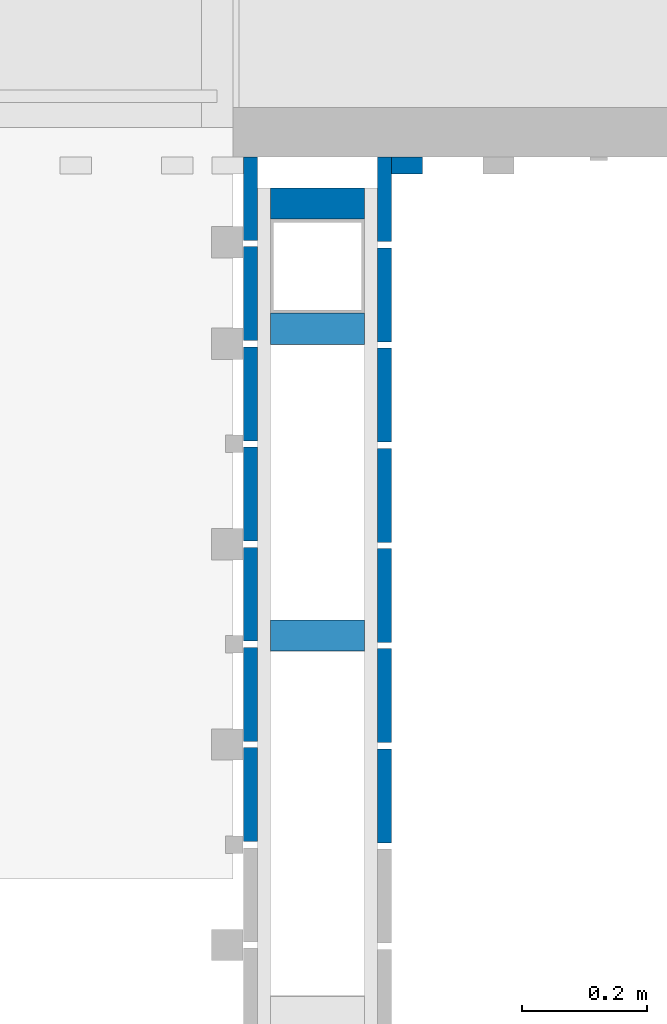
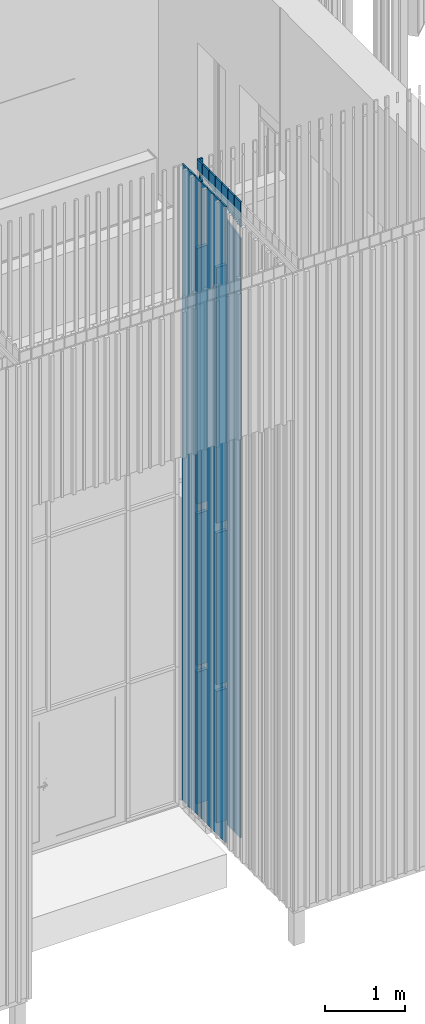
# One storey, part 150 of 390: 22 walls.
"""IFC2X3 building model written with IfcOpenShell, lengths in millimetres."""

from ifc_helpers import new_model, entity, si_unit, converted_unit, derived_unit, money_unit, direction, frame, origin_with_axes, place, context, subcontext, project, spatial, faceted_brep, material, material_list, type_object, element, save


model = new_model("IFC2X3")

# Units and contexts
model_context = context("Model", 3, precision=1e-05, world=origin_with_axes(), true_north=direction((0.0, 1.0)))
body_context = subcontext(model_context, "Body", "Model", "MODEL_VIEW")
ifc_project = project(units=[si_unit("LENGTHUNIT", "METRE", prefix="MILLI"), si_unit("AREAUNIT", "SQUARE_METRE"), si_unit("VOLUMEUNIT", "CUBIC_METRE"), converted_unit("PLANEANGLEUNIT", "DEGREE", entity("IfcPlaneAngleMeasure", 0.0174532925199), si_unit("PLANEANGLEUNIT", "RADIAN"), dimensions=[0, 0, 0, 0, 0, 0, 0]), si_unit("SOLIDANGLEUNIT", "STERADIAN"), money_unit("EUR"), converted_unit("TIMEUNIT", "Year", entity("IfcTimeMeasure", 31556926.0), si_unit("TIMEUNIT", "SECOND"), dimensions=[0, 0, 1, 0, 0, 0, 0]), si_unit("MASSUNIT", "GRAM", prefix="KILO"), si_unit("THERMODYNAMICTEMPERATUREUNIT", "DEGREE_CELSIUS"), si_unit("LUMINOUSINTENSITYUNIT", "LUMEN"), si_unit("ENERGYUNIT", "JOULE", prefix="MEGA"), derived_unit("THERMALCONDUCTANCEUNIT", [(si_unit("POWERUNIT", "WATT"), 1), (si_unit("LENGTHUNIT", "METRE"), -1), (si_unit("THERMODYNAMICTEMPERATUREUNIT", "KELVIN"), -1)]), derived_unit("SPECIFICHEATCAPACITYUNIT", [(si_unit("ENERGYUNIT", "JOULE"), 1), (si_unit("MASSUNIT", "GRAM", prefix="KILO"), -1), (si_unit("THERMODYNAMICTEMPERATUREUNIT", "KELVIN"), -1)]), derived_unit("MASSDENSITYUNIT", [(si_unit("MASSUNIT", "GRAM", prefix="KILO"), 1), (si_unit("VOLUMEUNIT", "CUBIC_METRE"), -1)])], contexts=[model_context])

# Site, building, storey
site_placement = place(None, origin_with_axes())
site = spatial("IfcSite", under=ifc_project, at=site_placement, Name="Site", CompositionType="ELEMENT")
building_placement = place(site_placement, origin_with_axes())
building = spatial("IfcBuilding", under=site, at=building_placement, Name="Building", CompositionType="ELEMENT")
storey_placement = place(building_placement, origin_with_axes())
storey = spatial("IfcBuildingStorey", under=building, at=storey_placement, Name="1 korrus", CompositionType="ELEMENT", Elevation=0.0)

# Walls
ifc_material = material(Name="Site specified")
wall_type = type_object("IfcWallType", Name="Puitfassaadi ribistik", PredefinedType="NOTDEFINED")
wall_1_placement = place(storey_placement, frame((132908.000037, 44725.0000099, 100.000000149), z_axis=(0.0, 0.0, 1.0), x_axis=(0.0, 1.0, 0.0)))
element("IfcWall", 1, at=wall_1_placement, inside=storey, type_object=wall_type, material=ifc_material, Name="Site specified", context=body_context, shape_type="Brep", body=[
    faceted_brep([(75.0, -11.0000000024, 9764.99999985), (-75.0, -11.0000000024, 9764.99999985), (-75.0, -11.0000000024, 0.0), (75.0, -11.0000000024, 0.0), (75.0, 11.0000000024, 9764.99999985), (-75.0, 11.0000000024, 9764.99999985), (-75.0, 11.0000000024, 0.0), (75.0, 11.0000000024, 0.0)], [[[0, 1, 2, 3]], [[4, 5, 1, 0]], [[1, 5, 6, 2]], [[7, 3, 2, 6]], [[4, 0, 3, 7]], [[5, 4, 7, 6]]]),
])
wall_2_placement = place(storey_placement, frame((133015.000037, 44989.0000099, 2320.00000001), z_axis=(0.0, 0.0, 1.0), x_axis=(0.0, 1.0, 0.0)))
element("IfcWall", 2, at=wall_2_placement, inside=storey, type_object=wall_type, material=ifc_material, Name="Site specified", context=body_context, shape_type="Brep", body=[
    faceted_brep([(25.0, -74.9999999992, 2330.0), (-25.0, -74.9999999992, 2330.0), (-25.0, -74.9999999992, 0.0), (25.0, -74.9999999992, 0.0), (25.0, 74.9999999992, 2330.0), (-25.0, 74.9999999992, 2330.0), (-25.0, 74.9999999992, 0.0), (25.0, 74.9999999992, 0.0)], [[[0, 1, 2, 3]], [[4, 5, 1, 0]], [[1, 5, 6, 2]], [[7, 3, 2, 6]], [[4, 0, 3, 7]], [[5, 4, 7, 6]]]),
])
wall_3_placement = place(storey_placement, frame((133015.000037, 44989.0000099, 4800.00000001), z_axis=(0.0, 0.0, 1.0), x_axis=(0.0, 1.0, 0.0)))
element("IfcWall", 3, at=wall_3_placement, inside=storey, type_object=wall_type, material=ifc_material, Name="Site specified", context=body_context, shape_type="Brep", body=[
    faceted_brep([(25.0, -74.9999999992, 3927.99999761), (-25.0, -74.9999999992, 3927.99999761), (-25.0, -74.9999999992, 0.0), (25.0, -74.9999999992, 0.0), (25.0, 74.9999999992, 3927.99999761), (-25.0, 74.9999999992, 3927.99999761), (-25.0, 74.9999999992, 0.0), (25.0, 74.9999999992, 0.0)], [[[0, 1, 2, 3]], [[4, 5, 1, 0]], [[1, 5, 6, 2]], [[7, 3, 2, 6]], [[4, 0, 3, 7]], [[5, 4, 7, 6]]]),
])
for number, where, z_axis, x_axis, name in (
    (4, (133015.000037, 44499.0000099, 200.000000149), (0.0, 0.0, 1.0), (0.0, 1.0, 0.0), "Site specified"),
    (5, (133015.000037, 44989.0000099, 200.000000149), (0.0, 0.0, 1.0), (0.0, 1.0, 0.0), "Site specified"),
):
    element("IfcWall", number, at=place(storey_placement, frame(where, z_axis=z_axis, x_axis=x_axis)), inside=storey, type_object=wall_type, material=ifc_material, Name=name, context=body_context, shape_type="Brep", body=[
        faceted_brep([(25.0, -74.9999999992, 2019.99999987), (-25.0, -74.9999999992, 2019.99999987), (-25.0, -74.9999999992, 0.0), (25.0, -74.9999999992, 0.0), (25.0, 74.9999999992, 2019.99999987), (-25.0, 74.9999999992, 2019.99999987), (-25.0, 74.9999999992, 0.0), (25.0, 74.9999999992, 0.0)], [[[0, 1, 2, 3]], [[4, 5, 1, 0]], [[1, 5, 6, 2]], [[7, 3, 2, 6]], [[4, 0, 3, 7]], [[5, 4, 7, 6]]]),
    ])
wall_4_placement = place(storey_placement, frame((132908.000037, 45045.0000099, 100.000000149), z_axis=(0.0, 0.0, 1.0), x_axis=(0.0, 1.0, 0.0)))
element("IfcWall", 6, at=wall_4_placement, inside=storey, type_object=wall_type, material=ifc_material, Name="Site specified", context=body_context, shape_type="Brep", body=[
    faceted_brep([(75.0, -11.0000000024, 9764.99999985), (-75.0, -11.0000000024, 9764.99999985), (-75.0, -11.0000000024, 0.0), (75.0, -11.0000000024, 0.0), (75.0, 11.0000000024, 9764.99999985), (-75.0, 11.0000000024, 9764.99999985), (-75.0, 11.0000000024, 0.0), (75.0, 11.0000000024, 0.0)], [[[0, 1, 2, 3]], [[4, 5, 1, 0]], [[1, 5, 6, 2]], [[7, 3, 2, 6]], [[4, 0, 3, 7]], [[5, 4, 7, 6]]]),
])
wall_5_placement = place(storey_placement, frame((133015.000037, 45189.0000099, 15.0000000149), z_axis=(0.0, 0.0, 1.0), x_axis=(0.0, 1.0, 0.0)))
element("IfcWall", 7, at=wall_5_placement, inside=storey, type_object=wall_type, material=ifc_material, Name="Site specified", context=body_context, shape_type="Brep", body=[
    faceted_brep([(25.0, -74.9999999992, 8712.99999761), (-25.0, -74.9999999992, 8712.99999761), (-25.0, -74.9999999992, 0.0), (25.0, -74.9999999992, 0.0), (25.0, 74.9999999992, 8712.99999761), (-25.0, 74.9999999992, 8712.99999761), (-25.0, 74.9999999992, 0.0), (25.0, 74.9999999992, 0.0)], [[[0, 1, 2, 3]], [[4, 5, 1, 0]], [[1, 5, 6, 2]], [[7, 3, 2, 6]], [[4, 0, 3, 7]], [[5, 4, 7, 6]]]),
])
wall_6_placement = place(storey_placement, frame((133015.000037, 44499.0000099, 2320.00000001), z_axis=(0.0, 0.0, 1.0), x_axis=(0.0, 1.0, 0.0)))
element("IfcWall", 8, at=wall_6_placement, inside=storey, type_object=wall_type, material=ifc_material, Name="Site specified", context=body_context, shape_type="Brep", body=[
    faceted_brep([(25.0, -74.9999999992, 2330.0), (-25.0, -74.9999999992, 2330.0), (-25.0, -74.9999999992, 0.0), (25.0, -74.9999999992, 0.0), (25.0, 74.9999999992, 2330.0), (-25.0, 74.9999999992, 2330.0), (-25.0, 74.9999999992, 0.0), (25.0, 74.9999999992, 0.0)], [[[0, 1, 2, 3]], [[4, 5, 1, 0]], [[1, 5, 6, 2]], [[7, 3, 2, 6]], [[4, 0, 3, 7]], [[5, 4, 7, 6]]]),
])
ifc_material_list = material_list([ifc_material, ifc_material])
wall_7_placement = place(storey_placement, frame((133158.042383, 45260.9998692, 100.000000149), z_axis=(0.0, 0.0, 1.0), x_axis=(-1.0, 0.0, 0.0)))
element("IfcWall", 9, at=wall_7_placement, inside=storey, type_object=wall_type, material=ifc_material_list, Name="Site specified", context=body_context, shape_type="Brep", body=[
    faceted_brep([(25.0, -2.00004289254, -3.12924797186e-06), (25.0, -2.00013920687, 9438.5673516), (18.0423465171, -2.0001392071, 9438.5673516), (18.0423465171, -1.99989569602, 9591.9184052), (-25.0, -2.00013920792, 9591.91725957), (-25.0, -2.00004289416, -3.12924797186e-06), (25.0, 25.0, 0.0), (25.0, 25.0, 9432.82828088), (18.0423465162, 25.0, 9432.82828088), (18.0423465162, 25.0002406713, 9586.17933508), (-25.0, 25.0, 9586.17820282), (-25.0, 25.0, 0.0)], [[[0, 1, 2, 3, 4, 5]], [[6, 7, 1, 0]], [[8, 2, 1, 7]], [[8, 9, 3, 2]], [[4, 3, 9, 10]], [[11, 5, 4, 10]], [[6, 0, 5, 11]], [[9, 8, 7, 6, 11, 10]]]),
    faceted_brep([(-25.0, 25.0, 9764.99999985), (-25.0, 25.0, 9607.64735531), (-25.0, -2.00013920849, 9613.38641206), (-25.0, -2.00013920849, 9764.99999985), (25.0, 25.0, 9764.99999985), (25.0, 25.0, 9607.64735531), (25.0, -2.00013920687, 9613.38641206), (25.0, -2.00013920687, 9764.99999985)], [[[0, 1, 2, 3]], [[4, 5, 1, 0]], [[5, 6, 2, 1]], [[3, 2, 6, 7]], [[3, 7, 4, 0]], [[7, 6, 5, 4]]]),
])
wall_8_placement = place(storey_placement, frame((133122.000037, 44243.0000099, 100.000000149), z_axis=(0.0, 0.0, 1.0), x_axis=(0.0, 1.0, 0.0)))
element("IfcWall", 10, at=wall_8_placement, inside=storey, type_object=wall_type, material=ifc_material_list, Name="Site specified", context=body_context, shape_type="Brep", body=[
    faceted_brep([(-4.05483519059, -11.0000000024, 9395.71683765), (-4.05497101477, -11.0000000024, 9374.24832416), (5.72650396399, -11.0000000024, 9376.3274459), (5.72664081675, -11.0000000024, 9397.79595456), (75.0, -11.0000000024, 9412.5204616), (75.0, -11.0000000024, 9764.99999985), (-75.0, -11.0000000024, 9764.99999985), (-75.0, -11.0000000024, 9380.63697735), (-4.0548351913, 11.0000000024, 9395.71683765), (-4.05497101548, 11.0000000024, 9374.24832416), (5.72650396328, 11.0000000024, 9376.3274459), (5.72664081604, 11.0000000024, 9397.79595456), (75.0, 11.0000000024, 9412.5204616), (75.0, 11.0000000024, 9764.99999985), (-75.0, 11.0000000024, 9764.99999985), (-75.0, 11.0000000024, 9380.63697735)], [[[0, 1, 2, 3, 4, 5, 6, 7]], [[8, 9, 1, 0]], [[9, 10, 2, 1]], [[3, 2, 10, 11]], [[11, 12, 4, 3]], [[5, 4, 12, 13]], [[13, 14, 6, 5]], [[14, 15, 7, 6]], [[8, 0, 7, 15]], [[11, 10, 9, 8, 15, 14, 13, 12]]]),
    faceted_brep([(75.0, 11.0000000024, 0.0), (75.0, 11.0000000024, 9237.7009125), (75.0, -11.0000000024, 9237.7009125), (75.0, -11.0000000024, 0.0), (-75.0, 11.0000000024, 0.0), (-75.0, 11.0000000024, 9205.81735069), (-75.0, -11.0000000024, 9205.81735069), (-75.0, -11.0000000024, 0.0)], [[[0, 1, 2, 3]], [[4, 5, 1, 0]], [[5, 6, 2, 1]], [[3, 2, 6, 7]], [[0, 3, 7, 4]], [[7, 6, 5, 4]]]),
])
wall_9_placement = place(storey_placement, frame((133122.000037, 44563.0000099, 100.000000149), z_axis=(0.0, 0.0, 1.0), x_axis=(0.0, 1.0, 0.0)))
element("IfcWall", 11, at=wall_9_placement, inside=storey, type_object=wall_type, material=ifc_material_list, Name="Site specified", context=body_context, shape_type="Brep", body=[
    faceted_brep([(-15.9383409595, -11.0000000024, 9461.20902026), (-15.9385091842, -11.0000000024, 9439.7406592), (-6.15703420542, -11.0000000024, 9441.81978094), (-6.1568649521, -11.0000000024, 9463.28813716), (75.0, -11.0000000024, 9480.53856133), (75.0, -11.0000000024, 9764.99999985), (-75.0, -11.0000000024, 9764.99999985), (-75.0, -11.0000000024, 9448.65507708), (-15.9383409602, 11.0000000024, 9461.20902026), (-15.9385091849, 11.0000000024, 9439.7406592), (-6.15703420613, 11.0000000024, 9441.81978094), (-6.15686495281, 11.0000000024, 9463.28813716), (75.0, 11.0000000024, 9480.53856133), (75.0, 11.0000000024, 9764.99999985), (-75.0, 11.0000000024, 9764.99999985), (-75.0, 11.0000000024, 9448.65507708)], [[[0, 1, 2, 3, 4, 5, 6, 7]], [[8, 9, 1, 0]], [[9, 10, 2, 1]], [[3, 2, 10, 11]], [[11, 12, 4, 3]], [[5, 4, 12, 13]], [[13, 14, 6, 5]], [[14, 15, 7, 6]], [[8, 0, 7, 15]], [[11, 10, 9, 8, 15, 14, 13, 12]]]),
    faceted_brep([(75.0, 11.0000000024, 0.0), (75.0, 11.0000000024, 9305.7191777), (75.0, -11.0000000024, 9305.7191777), (75.0, -11.0000000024, 0.0), (-75.0, 11.0000000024, 0.0), (-75.0, 11.0000000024, 9273.83561589), (-75.0, -11.0000000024, 9273.83561589), (-75.0, -11.0000000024, 0.0)], [[[0, 1, 2, 3]], [[4, 5, 1, 0]], [[5, 6, 2, 1]], [[3, 2, 6, 7]], [[0, 3, 7, 4]], [[7, 6, 5, 4]]]),
])
wall_10_placement = place(storey_placement, frame((133122.000037, 44883.0000099, 100.000000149), z_axis=(0.0, 0.0, 1.0), x_axis=(0.0, 1.0, 0.0)))
element("IfcWall", 12, at=wall_10_placement, inside=storey, type_object=wall_type, material=ifc_material_list, Name="Site specified", context=body_context, shape_type="Brep", body=[
    faceted_brep([(74.8836513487, -11.0000000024, 9548.5319304), (74.8834399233, -11.0000000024, 9527.06377258), (75.0, -11.0000000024, 9527.08854825), (75.0, -11.0000000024, 9764.99999985), (-75.0, -11.0000000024, 9764.99999985), (-75.0, -11.0000000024, 9516.67317682), (-27.8218467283, -11.0000000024, 9526.70120286), (-27.8220473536, -11.0000000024, 9505.23299424), (-18.0405723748, -11.0000000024, 9507.31211598), (-18.040370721, -11.0000000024, 9528.78031977), (74.883651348, 11.0000000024, 9548.5319304), (74.8834399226, 11.0000000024, 9527.06377258), (75.0, 11.0000000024, 9527.08854825), (75.0, 11.0000000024, 9764.99999985), (-75.0, 11.0000000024, 9764.99999985), (-75.0, 11.0000000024, 9516.67317682), (-27.821846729, 11.0000000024, 9526.70120286), (-27.8220473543, 11.0000000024, 9505.23299424), (-18.0405723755, 11.0000000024, 9507.31211598), (-18.0403707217, 11.0000000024, 9528.78031977)], [[[0, 1, 2, 3, 4, 5, 6, 7, 8, 9]], [[10, 11, 1, 0]], [[11, 12, 2, 1]], [[3, 2, 12, 13]], [[13, 14, 4, 3]], [[14, 15, 5, 4]], [[16, 6, 5, 15]], [[16, 17, 7, 6]], [[17, 18, 8, 7]], [[9, 8, 18, 19]], [[10, 0, 9, 19]], [[13, 12, 11, 10, 19, 18, 17, 16, 15, 14]]]),
    faceted_brep([(75.0, 11.0000000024, 0.0), (75.0, 11.0000000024, 9373.7374429), (75.0, -11.0000000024, 9373.7374429), (75.0, -11.0000000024, 0.0), (-75.0, 11.0000000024, 0.0), (-75.0, 11.0000000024, 9341.85388109), (-75.0, -11.0000000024, 9341.85388109), (-75.0, -11.0000000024, 0.0)], [[[0, 1, 2, 3]], [[4, 5, 1, 0]], [[5, 6, 2, 1]], [[3, 2, 6, 7]], [[0, 3, 7, 4]], [[7, 6, 5, 4]]]),
])
wall_11_placement = place(storey_placement, frame((133122.000037, 44403.0000099, 100.000000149), z_axis=(0.0, 0.0, 1.0), x_axis=(0.0, 1.0, 0.0)))
element("IfcWall", 13, at=wall_11_placement, inside=storey, type_object=wall_type, material=ifc_material_list, Name="Site specified", context=body_context, shape_type="Brep", body=[
    faceted_brep([(41.3561609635, -11.0000000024, 9439.37829272), (41.356003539, -11.0000000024, 9417.90988085), (51.1374785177, -11.0000000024, 9419.9890026), (51.1376369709, -11.0000000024, 9441.45740963), (75.0, -11.0000000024, 9446.52951147), (75.0, -11.0000000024, 9764.99999985), (-75.0, -11.0000000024, 9764.99999985), (-75.0, -11.0000000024, 9414.64602722), (-61.3493371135, -11.0000000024, 9417.54756518), (-61.3494837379, -11.0000000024, 9396.0791025), (-51.5680087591, -11.0000000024, 9398.15822425), (-51.5678611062, -11.0000000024, 9419.62668209), (41.3561609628, 11.0000000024, 9439.37829272), (41.3560035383, 11.0000000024, 9417.90988085), (51.137478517, 11.0000000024, 9419.9890026), (51.1376369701, 11.0000000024, 9441.45740963), (75.0, 11.0000000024, 9446.52951147), (75.0, 11.0000000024, 9764.99999985), (-75.0, 11.0000000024, 9764.99999985), (-75.0, 11.0000000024, 9414.64602722), (-61.3493371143, 11.0000000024, 9417.54756518), (-61.3494837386, 11.0000000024, 9396.0791025), (-51.5680087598, 11.0000000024, 9398.15822425), (-51.5678611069, 11.0000000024, 9419.62668209)], [[[0, 1, 2, 3, 4, 5, 6, 7, 8, 9, 10, 11]], [[12, 13, 1, 0]], [[13, 14, 2, 1]], [[3, 2, 14, 15]], [[15, 16, 4, 3]], [[5, 4, 16, 17]], [[17, 18, 6, 5]], [[18, 19, 7, 6]], [[20, 8, 7, 19]], [[20, 21, 9, 8]], [[21, 22, 10, 9]], [[11, 10, 22, 23]], [[12, 0, 11, 23]], [[15, 14, 13, 12, 23, 22, 21, 20, 19, 18, 17, 16]]]),
    faceted_brep([(75.0, 11.0000000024, 0.0), (75.0, 11.0000000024, 9271.7100451), (75.0, -11.0000000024, 9271.7100451), (75.0, -11.0000000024, 0.0), (-75.0, 11.0000000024, 0.0), (-75.0, 11.0000000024, 9239.82648329), (-75.0, -11.0000000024, 9239.82648329), (-75.0, -11.0000000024, 0.0)], [[[0, 1, 2, 3]], [[4, 5, 1, 0]], [[5, 6, 2, 1]], [[3, 2, 6, 7]], [[0, 3, 7, 4]], [[7, 6, 5, 4]]]),
])
wall_12_placement = place(storey_placement, frame((133122.000037, 45043.0000099, 100.000000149), z_axis=(0.0, 0.0, 1.0), x_axis=(0.0, 1.0, 0.0)))
element("IfcWall", 14, at=wall_12_placement, inside=storey, type_object=wall_type, material=ifc_material_list, Name="Site specified", context=body_context, shape_type="Brep", body=[
    faceted_brep([(17.5891494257, -11.0000000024, 9570.36265793), (17.5889272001, -11.0000000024, 9548.89455093), (27.3704021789, -11.0000000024, 9550.97367268), (27.3706254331, -11.0000000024, 9572.44177484), (75.0, -11.0000000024, 9582.56571094), (75.0, -11.0000000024, 9764.99999985), (-75.0, -11.0000000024, 9764.99999985), (-75.0, -11.0000000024, 9550.68222669), (17.589149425, 11.0000000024, 9570.36265793), (17.5889271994, 11.0000000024, 9548.89455093), (27.3704021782, 11.0000000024, 9550.97367268), (27.3706254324, 11.0000000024, 9572.44177484), (75.0, 11.0000000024, 9582.56571094), (75.0, 11.0000000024, 9764.99999985), (-75.0, 11.0000000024, 9764.99999985), (-75.0, 11.0000000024, 9550.68222669)], [[[0, 1, 2, 3, 4, 5, 6, 7]], [[8, 9, 1, 0]], [[9, 10, 2, 1]], [[3, 2, 10, 11]], [[11, 12, 4, 3]], [[5, 4, 12, 13]], [[13, 14, 6, 5]], [[14, 15, 7, 6]], [[8, 0, 7, 15]], [[11, 10, 9, 8, 15, 14, 13, 12]]]),
    faceted_brep([(75.0, 11.0000000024, 0.0), (75.0, 11.0000000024, 9407.7465755), (75.0, -11.0000000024, 9407.7465755), (75.0, -11.0000000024, 0.0), (-75.0, 11.0000000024, 0.0), (-75.0, 11.0000000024, 9375.86301368), (-75.0, -11.0000000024, 9375.86301368), (-75.0, -11.0000000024, 0.0)], [[[0, 1, 2, 3]], [[4, 5, 1, 0]], [[5, 6, 2, 1]], [[3, 2, 6, 7]], [[0, 3, 7, 4]], [[7, 6, 5, 4]]]),
])
wall_13_placement = place(storey_placement, frame((133122.000037, 44723.0000099, 100.000000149), z_axis=(0.0, 0.0, 1.0), x_axis=(0.0, 1.0, 0.0)))
element("IfcWall", 15, at=wall_13_placement, inside=storey, type_object=wall_type, material=ifc_material_list, Name="Site specified", context=body_context, shape_type="Brep", body=[
    faceted_brep([(29.4726551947, -11.0000000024, 9504.87047533), (29.4724653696, -11.0000000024, 9483.40221589), (39.2539403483, -11.0000000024, 9485.48133764), (39.254131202, -11.0000000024, 9506.94959224), (75.0, -11.0000000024, 9514.5476112), (75.0, -11.0000000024, 9764.99999985), (-75.0, -11.0000000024, 9764.99999985), (-75.0, -11.0000000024, 9482.66412695), (-73.2328428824, -11.0000000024, 9483.03974779), (-73.2330219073, -11.0000000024, 9461.57143754), (-63.4515469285, -11.0000000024, 9463.65055929), (-63.451366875, -11.0000000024, 9485.1188647), (29.4726551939, 11.0000000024, 9504.87047533), (29.4724653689, 11.0000000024, 9483.40221589), (39.2539403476, 11.0000000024, 9485.48133764), (39.2541312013, 11.0000000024, 9506.94959224), (75.0, 11.0000000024, 9514.5476112), (75.0, 11.0000000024, 9764.99999985), (-75.0, 11.0000000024, 9764.99999985), (-75.0, 11.0000000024, 9482.66412695), (-73.2328428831, 11.0000000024, 9483.03974779), (-73.233021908, 11.0000000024, 9461.57143754), (-63.4515469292, 11.0000000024, 9463.65055929), (-63.4513668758, 11.0000000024, 9485.1188647)], [[[0, 1, 2, 3, 4, 5, 6, 7, 8, 9, 10, 11]], [[12, 13, 1, 0]], [[13, 14, 2, 1]], [[3, 2, 14, 15]], [[15, 16, 4, 3]], [[5, 4, 16, 17]], [[17, 18, 6, 5]], [[18, 19, 7, 6]], [[20, 8, 7, 19]], [[20, 21, 9, 8]], [[21, 22, 10, 9]], [[11, 10, 22, 23]], [[12, 0, 11, 23]], [[15, 14, 13, 12, 23, 22, 21, 20, 19, 18, 17, 16]]]),
    faceted_brep([(75.0, 11.0000000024, 0.0), (75.0, 11.0000000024, 9339.7283103), (75.0, -11.0000000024, 9339.7283103), (75.0, -11.0000000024, 0.0), (-75.0, 11.0000000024, 0.0), (-75.0, 11.0000000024, 9307.84474849), (-75.0, -11.0000000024, 9307.84474849), (-75.0, -11.0000000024, 0.0)], [[[0, 1, 2, 3]], [[4, 5, 1, 0]], [[5, 6, 2, 1]], [[3, 2, 6, 7]], [[0, 3, 7, 4]], [[7, 6, 5, 4]]]),
])
wall_14_placement = place(storey_placement, frame((132908.000037, 45205.0000099, 100.000000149), z_axis=(0.0, 0.0, 1.0), x_axis=(0.0, 1.0, 0.0)))
element("IfcWall", 16, at=wall_14_placement, inside=storey, type_object=wall_type, material=ifc_material, Name="Site specified", context=body_context, shape_type="Brep", body=[
    faceted_brep([(-75.0, -11.0000000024, 9764.99999985), (-75.0, -11.0000000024, 0.0), (57.9999022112, -11.0000000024, -3.12924797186e-06), (57.9999985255, -11.0000000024, 9764.99999985), (-75.0, 11.0000000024, 9764.99999985), (-75.0, 11.0000000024, 0.0), (57.9999022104, 11.0000000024, -3.12924797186e-06), (57.9999985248, 11.0000000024, 9764.99999985)], [[[0, 1, 2, 3]], [[1, 0, 4, 5]], [[1, 5, 6, 2]], [[6, 7, 3, 2]], [[4, 0, 3, 7]], [[4, 7, 6, 5]]]),
])
for number, where, z_axis, x_axis, name in (
    (17, (132908.000037, 44245.0000099, 100.000000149), (0.0, 0.0, 1.0), (0.0, 1.0, 0.0), "Site specified"),
    (18, (132908.000037, 44565.0000099, 100.000000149), (0.0, 0.0, 1.0), (0.0, 1.0, 0.0), "Site specified"),
    (19, (132908.000037, 44405.0000099, 100.000000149), (0.0, 0.0, 1.0), (0.0, 1.0, 0.0), "Site specified"),
    (20, (132908.000037, 44885.0000099, 100.000000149), (0.0, 0.0, 1.0), (0.0, 1.0, 0.0), "Site specified"),
):
    element("IfcWall", number, at=place(storey_placement, frame(where, z_axis=z_axis, x_axis=x_axis)), inside=storey, type_object=wall_type, material=ifc_material, Name=name, context=body_context, shape_type="Brep", body=[
        faceted_brep([(75.0, -11.0000000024, 9764.99999985), (-75.0, -11.0000000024, 9764.99999985), (-75.0, -11.0000000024, 0.0), (75.0, -11.0000000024, 0.0), (75.0, 11.0000000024, 9764.99999985), (-75.0, 11.0000000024, 9764.99999985), (-75.0, 11.0000000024, 0.0), (75.0, 11.0000000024, 0.0)], [[[0, 1, 2, 3]], [[4, 5, 1, 0]], [[1, 5, 6, 2]], [[7, 3, 2, 6]], [[4, 0, 3, 7]], [[5, 4, 7, 6]]]),
    ])
wall_15_placement = place(storey_placement, frame((133122.000037, 45203.0000099, 100.000000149), z_axis=(0.0, 0.0, 1.0), x_axis=(0.0, 1.0, 0.0)))
element("IfcWall", 21, at=wall_15_placement, inside=storey, type_object=wall_type, material=ifc_material_list, Name="Site specified", context=body_context, shape_type="Brep", body=[
    faceted_brep([(-39.7053524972, -11.0000000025, 9592.19338547), (-39.705585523, -11.0000000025, 9570.72532928), (-29.9241105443, -11.0000000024, 9572.80445102), (-29.9238764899, -11.0000000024, 9594.27250238), (59.9999985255, -11.0000000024, 9613.38641206), (59.9999985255, -11.0000000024, 9764.99999985), (-75.0, -11.0000000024, 9764.99999985), (-75.0, -11.0000000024, 9584.69127655), (-39.7053524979, 11.0000000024, 9592.19338547), (-39.7055855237, 11.0000000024, 9570.72532928), (-29.924110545, 11.0000000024, 9572.80445102), (-29.9238764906, 11.0000000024, 9594.27250238), (59.9999985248, 11.0000000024, 9613.38641206), (59.9999985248, 11.0000000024, 9764.99999985), (-75.0, 11.0000000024, 9764.99999985), (-75.0, 11.0000000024, 9584.69127655)], [[[0, 1, 2, 3, 4, 5, 6, 7]], [[8, 9, 1, 0]], [[9, 10, 2, 1]], [[3, 2, 10, 11]], [[4, 3, 11, 12]], [[12, 13, 5, 4]], [[14, 6, 5, 13]], [[6, 14, 15, 7]], [[15, 8, 0, 7]], [[11, 10, 9, 8, 15, 14, 13, 12]]]),
    faceted_brep([(59.9999022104, 11.0000000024, -3.12924797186e-06), (59.9999985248, 11.0000000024, 9438.5673516), (59.9999985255, -11.0000000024, 9438.5673516), (59.9999022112, -11.0000000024, -3.12924797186e-06), (-75.0, 11.0000000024, 0.0), (-75.0, 11.0000000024, 9409.87214628), (-75.0, -11.0000000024, 9409.87214628), (-75.0, -11.0000000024, 0.0)], [[[0, 1, 2, 3]], [[4, 5, 1, 0]], [[5, 6, 2, 1]], [[3, 2, 6, 7]], [[7, 4, 0, 3]], [[7, 6, 5, 4]]]),
])
wall_16_placement = place(storey_placement, frame((133015.000037, 44499.0000099, 4800.00000001), z_axis=(0.0, 0.0, 1.0), x_axis=(0.0, 1.0, 0.0)))
element("IfcWall", 22, at=wall_16_placement, inside=storey, type_object=wall_type, material=ifc_material, Name="Site specified", context=body_context, shape_type="Brep", body=[
    faceted_brep([(25.0, -74.9999999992, 3927.99999761), (-25.0, -74.9999999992, 3927.99999761), (-25.0, -74.9999999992, 0.0), (25.0, -74.9999999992, 0.0), (25.0, 74.9999999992, 3927.99999761), (-25.0, 74.9999999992, 3927.99999761), (-25.0, 74.9999999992, 0.0), (25.0, 74.9999999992, 0.0)], [[[0, 1, 2, 3]], [[4, 5, 1, 0]], [[1, 5, 6, 2]], [[7, 3, 2, 6]], [[4, 0, 3, 7]], [[5, 4, 7, 6]]]),
])

save(model, "model.ifc")
